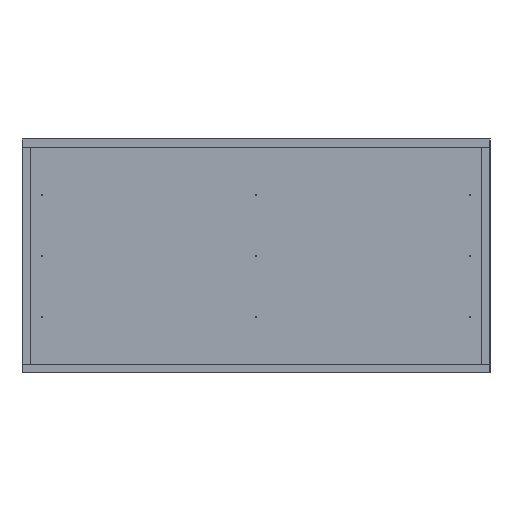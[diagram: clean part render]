
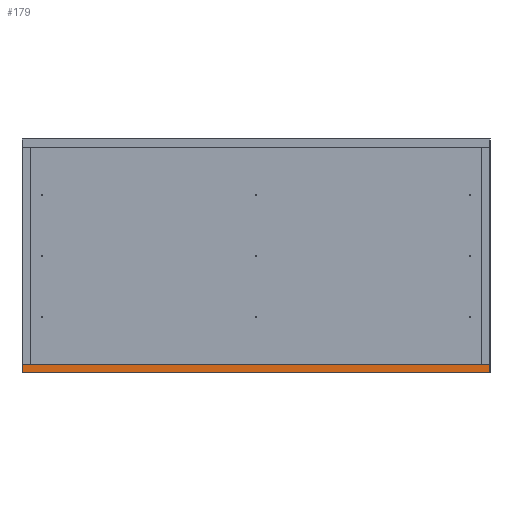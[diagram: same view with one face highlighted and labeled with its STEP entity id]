
A CAD part, left-side view. The second image highlights one B-rep face of the part: STEP entity #179.
In plain terms, the highlighted planar face has unit normal (-1, 0, 0).
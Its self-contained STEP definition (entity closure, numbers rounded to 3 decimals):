
#179 = ADVANCED_FACE('',(#180),#194,.F.);
#180 = FACE_BOUND('',#181,.F.);
#181 = EDGE_LOOP('',(#182,#217,#245,#273));
#182 = ORIENTED_EDGE('',*,*,#183,.F.);
#183 = EDGE_CURVE('',#184,#186,#188,.T.);
#184 = VERTEX_POINT('',#185);
#185 = CARTESIAN_POINT('',(0.,0.,0.));
#186 = VERTEX_POINT('',#187);
#187 = CARTESIAN_POINT('',(0.,0.,18.));
#188 = SURFACE_CURVE('',#189,(#193,#205),.PCURVE_S1.);
#189 = LINE('',#190,#191);
#190 = CARTESIAN_POINT('',(0.,0.,0.));
#191 = VECTOR('',#192,1.);
#192 = DIRECTION('',(0.,0.,1.));
#193 = PCURVE('',#194,#199);
#194 = PLANE('',#195);
#195 = AXIS2_PLACEMENT_3D('',#196,#197,#198);
#196 = CARTESIAN_POINT('',(0.,0.,0.));
#197 = DIRECTION('',(1.,0.,-0.));
#198 = DIRECTION('',(0.,0.,1.));
#199 = DEFINITIONAL_REPRESENTATION('',(#200),#204);
#200 = LINE('',#201,#202);
#201 = CARTESIAN_POINT('',(0.,0.));
#202 = VECTOR('',#203,1.);
#203 = DIRECTION('',(1.,0.));
#204 = ( GEOMETRIC_REPRESENTATION_CONTEXT(2) 
PARAMETRIC_REPRESENTATION_CONTEXT() REPRESENTATION_CONTEXT('2D SPACE',''
  ) );
#205 = PCURVE('',#206,#211);
#206 = PLANE('',#207);
#207 = AXIS2_PLACEMENT_3D('',#208,#209,#210);
#208 = CARTESIAN_POINT('',(0.,0.,0.));
#209 = DIRECTION('',(-0.,1.,0.));
#210 = DIRECTION('',(0.,0.,1.));
#211 = DEFINITIONAL_REPRESENTATION('',(#212),#216);
#212 = LINE('',#213,#214);
#213 = CARTESIAN_POINT('',(0.,0.));
#214 = VECTOR('',#215,1.);
#215 = DIRECTION('',(1.,0.));
#216 = ( GEOMETRIC_REPRESENTATION_CONTEXT(2) 
PARAMETRIC_REPRESENTATION_CONTEXT() REPRESENTATION_CONTEXT('2D SPACE',''
  ) );
#217 = ORIENTED_EDGE('',*,*,#218,.T.);
#218 = EDGE_CURVE('',#184,#219,#221,.T.);
#219 = VERTEX_POINT('',#220);
#220 = CARTESIAN_POINT('',(0.,1000.,0.));
#221 = SURFACE_CURVE('',#222,(#226,#233),.PCURVE_S1.);
#222 = LINE('',#223,#224);
#223 = CARTESIAN_POINT('',(0.,0.,0.));
#224 = VECTOR('',#225,1.);
#225 = DIRECTION('',(-0.,1.,0.));
#226 = PCURVE('',#194,#227);
#227 = DEFINITIONAL_REPRESENTATION('',(#228),#232);
#228 = LINE('',#229,#230);
#229 = CARTESIAN_POINT('',(0.,0.));
#230 = VECTOR('',#231,1.);
#231 = DIRECTION('',(0.,-1.));
#232 = ( GEOMETRIC_REPRESENTATION_CONTEXT(2) 
PARAMETRIC_REPRESENTATION_CONTEXT() REPRESENTATION_CONTEXT('2D SPACE',''
  ) );
#233 = PCURVE('',#234,#239);
#234 = PLANE('',#235);
#235 = AXIS2_PLACEMENT_3D('',#236,#237,#238);
#236 = CARTESIAN_POINT('',(0.,0.,0.));
#237 = DIRECTION('',(0.,0.,1.));
#238 = DIRECTION('',(1.,0.,-0.));
#239 = DEFINITIONAL_REPRESENTATION('',(#240),#244);
#240 = LINE('',#241,#242);
#241 = CARTESIAN_POINT('',(0.,0.));
#242 = VECTOR('',#243,1.);
#243 = DIRECTION('',(0.,1.));
#244 = ( GEOMETRIC_REPRESENTATION_CONTEXT(2) 
PARAMETRIC_REPRESENTATION_CONTEXT() REPRESENTATION_CONTEXT('2D SPACE',''
  ) );
#245 = ORIENTED_EDGE('',*,*,#246,.T.);
#246 = EDGE_CURVE('',#219,#247,#249,.T.);
#247 = VERTEX_POINT('',#248);
#248 = CARTESIAN_POINT('',(0.,1000.,18.));
#249 = SURFACE_CURVE('',#250,(#254,#261),.PCURVE_S1.);
#250 = LINE('',#251,#252);
#251 = CARTESIAN_POINT('',(0.,1000.,0.));
#252 = VECTOR('',#253,1.);
#253 = DIRECTION('',(0.,0.,1.));
#254 = PCURVE('',#194,#255);
#255 = DEFINITIONAL_REPRESENTATION('',(#256),#260);
#256 = LINE('',#257,#258);
#257 = CARTESIAN_POINT('',(0.,-1000.));
#258 = VECTOR('',#259,1.);
#259 = DIRECTION('',(1.,0.));
#260 = ( GEOMETRIC_REPRESENTATION_CONTEXT(2) 
PARAMETRIC_REPRESENTATION_CONTEXT() REPRESENTATION_CONTEXT('2D SPACE',''
  ) );
#261 = PCURVE('',#262,#267);
#262 = PLANE('',#263);
#263 = AXIS2_PLACEMENT_3D('',#264,#265,#266);
#264 = CARTESIAN_POINT('',(0.,1000.,0.));
#265 = DIRECTION('',(-0.,1.,0.));
#266 = DIRECTION('',(0.,0.,1.));
#267 = DEFINITIONAL_REPRESENTATION('',(#268),#272);
#268 = LINE('',#269,#270);
#269 = CARTESIAN_POINT('',(0.,0.));
#270 = VECTOR('',#271,1.);
#271 = DIRECTION('',(1.,0.));
#272 = ( GEOMETRIC_REPRESENTATION_CONTEXT(2) 
PARAMETRIC_REPRESENTATION_CONTEXT() REPRESENTATION_CONTEXT('2D SPACE',''
  ) );
#273 = ORIENTED_EDGE('',*,*,#274,.F.);
#274 = EDGE_CURVE('',#186,#247,#275,.T.);
#275 = SURFACE_CURVE('',#276,(#280,#287),.PCURVE_S1.);
#276 = LINE('',#277,#278);
#277 = CARTESIAN_POINT('',(0.,0.,18.));
#278 = VECTOR('',#279,1.);
#279 = DIRECTION('',(-0.,1.,0.));
#280 = PCURVE('',#194,#281);
#281 = DEFINITIONAL_REPRESENTATION('',(#282),#286);
#282 = LINE('',#283,#284);
#283 = CARTESIAN_POINT('',(18.,0.));
#284 = VECTOR('',#285,1.);
#285 = DIRECTION('',(0.,-1.));
#286 = ( GEOMETRIC_REPRESENTATION_CONTEXT(2) 
PARAMETRIC_REPRESENTATION_CONTEXT() REPRESENTATION_CONTEXT('2D SPACE',''
  ) );
#287 = PCURVE('',#288,#293);
#288 = PLANE('',#289);
#289 = AXIS2_PLACEMENT_3D('',#290,#291,#292);
#290 = CARTESIAN_POINT('',(0.,0.,18.));
#291 = DIRECTION('',(0.,0.,1.));
#292 = DIRECTION('',(1.,0.,-0.));
#293 = DEFINITIONAL_REPRESENTATION('',(#294),#298);
#294 = LINE('',#295,#296);
#295 = CARTESIAN_POINT('',(0.,0.));
#296 = VECTOR('',#297,1.);
#297 = DIRECTION('',(0.,1.));
#298 = ( GEOMETRIC_REPRESENTATION_CONTEXT(2) 
PARAMETRIC_REPRESENTATION_CONTEXT() REPRESENTATION_CONTEXT('2D SPACE',''
  ) );
